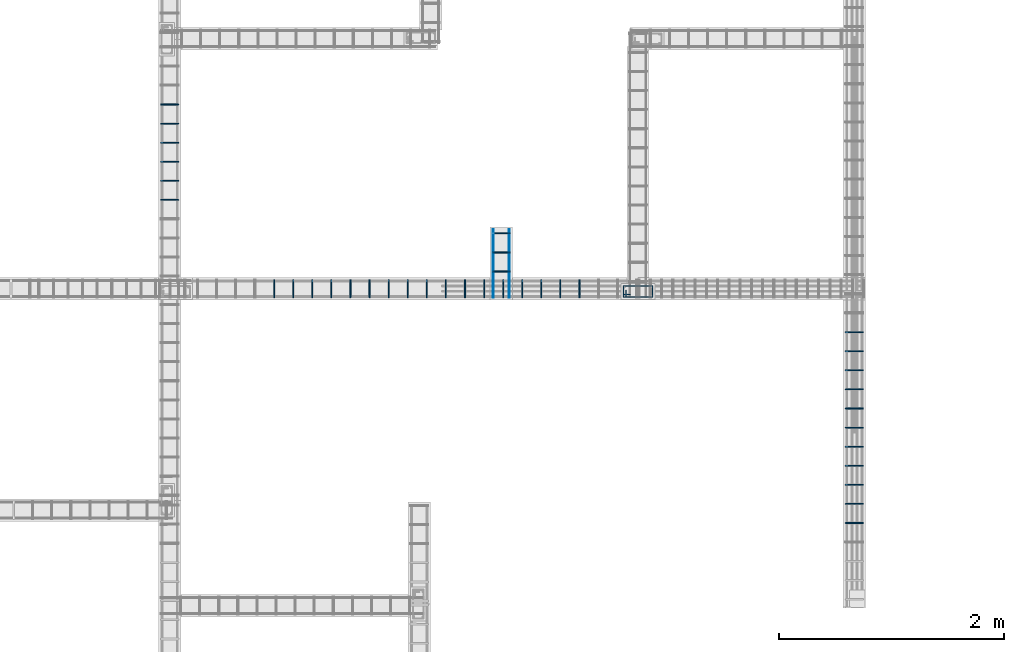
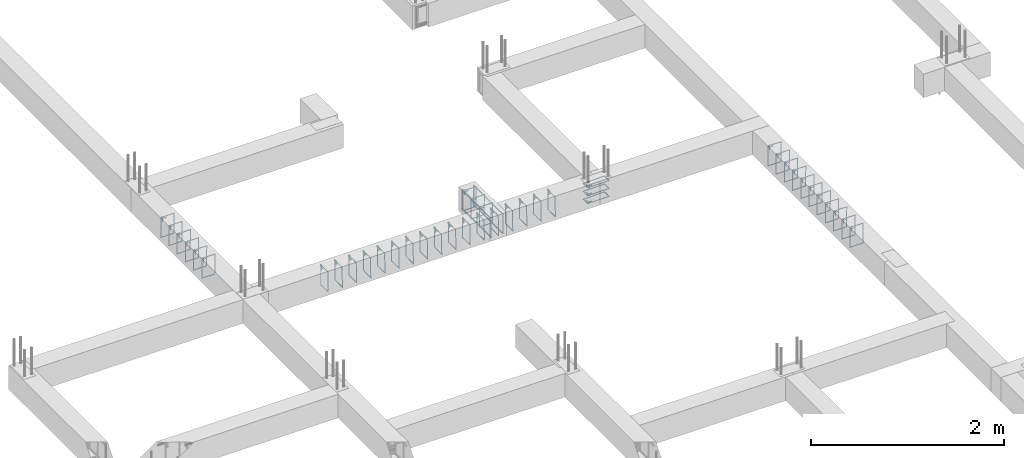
# One storey, part 50 of 150: 44 reinforcing bars.
"""IFC4 building model written with IfcOpenShell, lengths in centimetres."""

from ifc_helpers import new_model, entity, si_unit, derived_unit, frame, origin_with_axes, place, context, project, spatial, source, transform, mapped, element, save


model = new_model("IFC4")

# Units and contexts
model_context = context("Model", 3, precision=1e-05, world=origin_with_axes(), identifier="Body")
ifc_project = project(units=[si_unit("LENGTHUNIT", "METRE", prefix="CENTI"), si_unit("VOLUMEUNIT", "CUBIC_METRE"), si_unit("AREAUNIT", "SQUARE_METRE"), si_unit("POWERUNIT", "WATT"), si_unit("LUMINOUSFLUXUNIT", "LUMEN"), si_unit("ELECTRICCURRENTUNIT", "AMPERE"), si_unit("PRESSUREUNIT", "PASCAL", prefix="KILO"), si_unit("MASSUNIT", "GRAM", prefix="KILO"), si_unit("PLANEANGLEUNIT", "RADIAN"), derived_unit("VOLUMETRICFLOWRATEUNIT", [(si_unit("LENGTHUNIT", "METRE"), 3), (si_unit("TIMEUNIT", "SECOND"), -1)])], contexts=[model_context])

# Site, building, storey
site_placement = place(None, frame((-4000.0, 0.0, 0.0), z_axis=(0.0, 0.0, 1.0), x_axis=(1.0, 0.0, 0.0)))
site = spatial("IfcSite", under=ifc_project, at=site_placement, Name="PADRÃO")
building_placement = place(site_placement, frame((0.0, 0.0, -14.0)))
building = spatial("IfcBuilding", under=site, at=building_placement, Name="CRECHE PRÉ-ESCOLA TIPO 2")
placement = place(building_placement, origin_with_axes())
storey_placement = place(placement, frame((0.0, 0.0, 30.0), z_axis=(0.0, 0.0, 1.0), x_axis=(1.0, 0.0, 0.0)))
storey = spatial("IfcBuildingStorey", under=building, at=storey_placement, Name="VIGA BALDRAME", CompositionType="ELEMENT", Elevation=16.0)

# Reinforcing bars
shared_shape_1 = source(origin_with_axes(), model_context, "Body", "AdvancedSweptSolid", [
    entity("IfcSweptDiskSolid", entity("IfcCompositeCurve", [entity("IfcCompositeCurveSegment", "CONTINUOUS", True, entity("IfcPolyline", [entity("IfcCartesianPoint", [4.25, 21.75, 0.0]), entity("IfcCartesianPoint", [4.25, 27.75, 0.0])])), entity("IfcCompositeCurveSegment", "CONTINUOUS", True, entity("IfcPolyline", [entity("IfcCartesianPoint", [4.25, 27.75, 0.0]), entity("IfcCartesianPoint", [2.25, 27.75, 0.0])])), entity("IfcCompositeCurveSegment", "CONTINUOUS", True, entity("IfcPolyline", [entity("IfcCartesianPoint", [2.25, 27.75, 0.0]), entity("IfcCartesianPoint", [2.25, 2.25, 0.0])])), entity("IfcCompositeCurveSegment", "CONTINUOUS", True, entity("IfcPolyline", [entity("IfcCartesianPoint", [2.25, 2.25, 0.0]), entity("IfcCartesianPoint", [11.75, 2.25, 0.0])])), entity("IfcCompositeCurveSegment", "CONTINUOUS", True, entity("IfcPolyline", [entity("IfcCartesianPoint", [11.75, 2.25, 0.0]), entity("IfcCartesianPoint", [11.75, 27.75, -0.5])])), entity("IfcCompositeCurveSegment", "CONTINUOUS", True, entity("IfcPolyline", [entity("IfcCartesianPoint", [11.75, 27.75, -0.5]), entity("IfcCartesianPoint", [2.25, 27.75, -0.5])])), entity("IfcCompositeCurveSegment", "CONTINUOUS", True, entity("IfcPolyline", [entity("IfcCartesianPoint", [2.25, 27.75, -0.5]), entity("IfcCartesianPoint", [2.25, 25.75, -0.5])])), entity("IfcCompositeCurveSegment", "CONTINUOUS", True, entity("IfcPolyline", [entity("IfcCartesianPoint", [2.25, 25.75, -0.5]), entity("IfcCartesianPoint", [8.25, 25.75, -0.5])]))], False), 0.25),
])
for number, where, z_axis, x_axis, name in (
    (1, (2958.24, 1020.52, -15.0), (0.0, 0.0, 1.0), (0.0, 1.0, 0.0), "P123 - Estribo"),
    (2, (2958.24, 1020.52, -5.0), (0.0, 0.0, 1.0), (0.0, 1.0, 0.0), "P123 - Estribo"),
    (3, (2958.24, 1020.52, -25.0), (0.0, 0.0, 1.0), (0.0, 1.0, 0.0), "P123 - Estribo"),
):
    element("IfcReinforcingBar", number, at=place(storey_placement, frame(where, z_axis=z_axis, x_axis=x_axis)), inside=storey, Name=name, BarLength=0.0, CrossSectionArea=1.9634954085e-05, NominalDiameter=0.5, PredefinedType="MAIN", context=model_context, shape_type="MappedRepresentation", body=[
        mapped(shared_shape_1, transform((0.0, 0.0, 0.0), scale=1.0)),
    ])
shared_shape_2 = source(origin_with_axes(), model_context, "Body", "AdvancedSweptSolid", [
    entity("IfcSweptDiskSolid", entity("IfcCompositeCurve", [entity("IfcCompositeCurveSegment", "CONTINUOUS", True, entity("IfcPolyline", [entity("IfcCartesianPoint", [2.0, -6.0, 0.0]), entity("IfcCartesianPoint", [2.0, 0.0, 0.0])])), entity("IfcCompositeCurveSegment", "CONTINUOUS", True, entity("IfcPolyline", [entity("IfcCartesianPoint", [2.0, 0.0, 0.0]), entity("IfcCartesianPoint", [0.0, 0.0, 0.0])])), entity("IfcCompositeCurveSegment", "CONTINUOUS", True, entity("IfcPolyline", [entity("IfcCartesianPoint", [0.0, 0.0, 0.0]), entity("IfcCartesianPoint", [0.0, -25.5, 0.0])])), entity("IfcCompositeCurveSegment", "CONTINUOUS", True, entity("IfcPolyline", [entity("IfcCartesianPoint", [0.0, -25.5, 0.0]), entity("IfcCartesianPoint", [15.5, -25.5, 0.0])])), entity("IfcCompositeCurveSegment", "CONTINUOUS", True, entity("IfcPolyline", [entity("IfcCartesianPoint", [15.5, -25.5, 0.0]), entity("IfcCartesianPoint", [15.5, 0.0, 0.5])])), entity("IfcCompositeCurveSegment", "CONTINUOUS", True, entity("IfcPolyline", [entity("IfcCartesianPoint", [15.5, 0.0, 0.5]), entity("IfcCartesianPoint", [0.0, 0.0, 0.5])])), entity("IfcCompositeCurveSegment", "CONTINUOUS", True, entity("IfcPolyline", [entity("IfcCartesianPoint", [0.0, 0.0, 0.5]), entity("IfcCartesianPoint", [0.0, -2.0, 0.5])])), entity("IfcCompositeCurveSegment", "CONTINUOUS", True, entity("IfcPolyline", [entity("IfcCartesianPoint", [0.0, -2.0, 0.5]), entity("IfcCartesianPoint", [6.0, -2.0, 0.5])]))], False), 0.25),
])
for number, where, z_axis, x_axis, name in (
    (4, (3128.25, 872.55, -2.25), (0.0, -1.0, 0.0), (1.0, 0.0, 0.0), "V216 - Estribo"),
    (5, (3128.25, 838.55, -2.25), (0.0, -1.0, 0.0), (1.0, 0.0, 0.0), "V216 - Estribo"),
    (6, (3128.25, 821.55, -2.25), (0.0, -1.0, 0.0), (1.0, 0.0, 0.0), "V216 - Estribo"),
    (7, (3128.25, 855.55, -2.25), (0.0, -1.0, 0.0), (1.0, 0.0, 0.0), "V216 - Estribo"),
    (8, (3128.25, 991.55, -2.25), (0.0, -1.0, 0.0), (1.0, 0.0, 0.0), "V216 - Estribo"),
    (9, (3128.25, 974.55, -2.25), (0.0, -1.0, 0.0), (1.0, 0.0, 0.0), "V216 - Estribo"),
    (10, (3128.25, 957.55, -2.25), (0.0, -1.0, 0.0), (1.0, 0.0, 0.0), "V216 - Estribo"),
    (11, (3128.25, 940.55, -2.25), (0.0, -1.0, 0.0), (1.0, 0.0, 0.0), "V216 - Estribo"),
    (12, (3128.25, 923.55, -2.25), (0.0, -1.0, 0.0), (1.0, 0.0, 0.0), "V216 - Estribo"),
    (13, (3128.25, 906.55, -2.25), (0.0, -1.0, 0.0), (1.0, 0.0, 0.0), "V216 - Estribo"),
    (14, (3128.25, 889.55, -2.25), (0.0, -1.0, 0.0), (1.0, 0.0, 0.0), "V216 - Estribo"),
):
    element("IfcReinforcingBar", number, at=place(storey_placement, frame(where, z_axis=z_axis, x_axis=x_axis)), inside=storey, Name=name, BarLength=0.0, CrossSectionArea=1.9634954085e-05, NominalDiameter=0.5, PredefinedType="MAIN", context=model_context, shape_type="MappedRepresentation", body=[
        mapped(shared_shape_2, transform((0.0, 0.0, 0.0), scale=1.0)),
    ])
shared_shape_3 = source(origin_with_axes(), model_context, "Body", "AdvancedSweptSolid", [
    entity("IfcSweptDiskSolid", entity("IfcCompositeCurve", [entity("IfcCompositeCurveSegment", "CONTINUOUS", True, entity("IfcPolyline", [entity("IfcCartesianPoint", [2.0, -6.0, 0.0]), entity("IfcCartesianPoint", [2.0, 0.0, 0.0])])), entity("IfcCompositeCurveSegment", "CONTINUOUS", True, entity("IfcPolyline", [entity("IfcCartesianPoint", [2.0, 0.0, 0.0]), entity("IfcCartesianPoint", [0.0, 0.0, 0.0])])), entity("IfcCompositeCurveSegment", "CONTINUOUS", True, entity("IfcPolyline", [entity("IfcCartesianPoint", [0.0, 0.0, 0.0]), entity("IfcCartesianPoint", [0.0, -25.5, 0.0])])), entity("IfcCompositeCurveSegment", "CONTINUOUS", True, entity("IfcPolyline", [entity("IfcCartesianPoint", [0.0, -25.5, 0.0]), entity("IfcCartesianPoint", [15.5, -25.5, 0.0])])), entity("IfcCompositeCurveSegment", "CONTINUOUS", True, entity("IfcPolyline", [entity("IfcCartesianPoint", [15.5, -25.5, 0.0]), entity("IfcCartesianPoint", [15.5, 0.0, 0.5])])), entity("IfcCompositeCurveSegment", "CONTINUOUS", True, entity("IfcPolyline", [entity("IfcCartesianPoint", [15.5, 0.0, 0.5]), entity("IfcCartesianPoint", [0.0, 0.0, 0.5])])), entity("IfcCompositeCurveSegment", "CONTINUOUS", True, entity("IfcPolyline", [entity("IfcCartesianPoint", [0.0, 0.0, 0.5]), entity("IfcCartesianPoint", [0.0, -2.0, 0.5])])), entity("IfcCompositeCurveSegment", "CONTINUOUS", True, entity("IfcPolyline", [entity("IfcCartesianPoint", [0.0, -2.0, 0.5]), entity("IfcCartesianPoint", [6.0, -2.0, 0.5])]))], False), 0.25),
])
for number, where, z_axis, x_axis, name in (
    (15, (2518.25, 1194.3, -2.25), (0.0, -1.0, 0.0), (1.0, 0.0, 0.0), "V196 - Estribo"),
    (16, (2518.25, 1177.3, -2.25), (0.0, -1.0, 0.0), (1.0, 0.0, 0.0), "V196 - Estribo"),
    (17, (2518.25, 1160.3, -2.25), (0.0, -1.0, 0.0), (1.0, 0.0, 0.0), "V196 - Estribo"),
    (18, (2518.25, 1143.3, -2.25), (0.0, -1.0, 0.0), (1.0, 0.0, 0.0), "V196 - Estribo"),
    (19, (2518.25, 1126.3, -2.25), (0.0, -1.0, 0.0), (1.0, 0.0, 0.0), "V196 - Estribo"),
    (20, (2518.25, 1109.3, -2.25), (0.0, -1.0, 0.0), (1.0, 0.0, 0.0), "V196 - Estribo"),
):
    element("IfcReinforcingBar", number, at=place(storey_placement, frame(where, z_axis=z_axis, x_axis=x_axis)), inside=storey, Name=name, BarLength=0.0, CrossSectionArea=1.9634954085e-05, NominalDiameter=0.5, PredefinedType="MAIN", context=model_context, shape_type="MappedRepresentation", body=[
        mapped(shared_shape_3, transform((0.0, 0.0, 0.0), scale=1.0)),
    ])
shared_shape_4 = source(origin_with_axes(), model_context, "Body", "AdvancedSweptSolid", [
    entity("IfcSweptDiskSolid", entity("IfcCompositeCurve", [entity("IfcCompositeCurveSegment", "CONTINUOUS", True, entity("IfcPolyline", [entity("IfcCartesianPoint", [2.0, -6.0, 0.0]), entity("IfcCartesianPoint", [2.0, 0.0, 0.0])])), entity("IfcCompositeCurveSegment", "CONTINUOUS", True, entity("IfcPolyline", [entity("IfcCartesianPoint", [2.0, 0.0, 0.0]), entity("IfcCartesianPoint", [0.0, 0.0, 0.0])])), entity("IfcCompositeCurveSegment", "CONTINUOUS", True, entity("IfcPolyline", [entity("IfcCartesianPoint", [0.0, 0.0, 0.0]), entity("IfcCartesianPoint", [0.0, -25.5, 0.0])])), entity("IfcCompositeCurveSegment", "CONTINUOUS", True, entity("IfcPolyline", [entity("IfcCartesianPoint", [0.0, -25.5, 0.0]), entity("IfcCartesianPoint", [15.5, -25.5, 0.0])])), entity("IfcCompositeCurveSegment", "CONTINUOUS", True, entity("IfcPolyline", [entity("IfcCartesianPoint", [15.5, -25.5, 0.0]), entity("IfcCartesianPoint", [15.5, 0.0, 0.5])])), entity("IfcCompositeCurveSegment", "CONTINUOUS", True, entity("IfcPolyline", [entity("IfcCartesianPoint", [15.5, 0.0, 0.5]), entity("IfcCartesianPoint", [0.0, 0.0, 0.5])])), entity("IfcCompositeCurveSegment", "CONTINUOUS", True, entity("IfcPolyline", [entity("IfcCartesianPoint", [0.0, 0.0, 0.5]), entity("IfcCartesianPoint", [0.0, -2.0, 0.5])])), entity("IfcCompositeCurveSegment", "CONTINUOUS", True, entity("IfcPolyline", [entity("IfcCartesianPoint", [0.0, -2.0, 0.5]), entity("IfcCartesianPoint", [6.0, -2.0, 0.5])]))], False), 0.25),
])
for number, where, z_axis, x_axis, name in (
    (21, (2813.75, 1079.51, -2.25), (0.0, -1.0, 0.0), (1.0, 0.0, 0.0), "V207 - Estribo"),
    (22, (2813.75, 1062.51, -2.25), (0.0, -1.0, 0.0), (1.0, 0.0, 0.0), "V207 - Estribo"),
    (23, (2813.75, 1045.51, -2.25), (0.0, -1.0, 0.0), (1.0, 0.0, 0.0), "V207 - Estribo"),
):
    element("IfcReinforcingBar", number, at=place(storey_placement, frame(where, z_axis=z_axis, x_axis=x_axis)), inside=storey, Name=name, BarLength=0.0, CrossSectionArea=1.9634954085e-05, NominalDiameter=0.5, PredefinedType="MAIN", context=model_context, shape_type="MappedRepresentation", body=[
        mapped(shared_shape_4, transform((0.0, 0.0, 0.0), scale=1.0)),
    ])
shared_shape_5 = source(origin_with_axes(), model_context, "Body", "AdvancedSweptSolid", [
    entity("IfcSweptDiskSolid", entity("IfcCompositeCurve", [entity("IfcCompositeCurveSegment", "CONTINUOUS", True, entity("IfcPolyline", [entity("IfcCartesianPoint", [2.0, -6.0, 0.0]), entity("IfcCartesianPoint", [2.0, 0.0, 0.0])])), entity("IfcCompositeCurveSegment", "CONTINUOUS", True, entity("IfcPolyline", [entity("IfcCartesianPoint", [2.0, 0.0, 0.0]), entity("IfcCartesianPoint", [0.0, 0.0, 0.0])])), entity("IfcCompositeCurveSegment", "CONTINUOUS", True, entity("IfcPolyline", [entity("IfcCartesianPoint", [0.0, 0.0, 0.0]), entity("IfcCartesianPoint", [0.0, -25.5, 0.0])])), entity("IfcCompositeCurveSegment", "CONTINUOUS", True, entity("IfcPolyline", [entity("IfcCartesianPoint", [0.0, -25.5, 0.0]), entity("IfcCartesianPoint", [15.5, -25.5, 0.0])])), entity("IfcCompositeCurveSegment", "CONTINUOUS", True, entity("IfcPolyline", [entity("IfcCartesianPoint", [15.5, -25.5, 0.0]), entity("IfcCartesianPoint", [15.5, 0.0, 0.5])])), entity("IfcCompositeCurveSegment", "CONTINUOUS", True, entity("IfcPolyline", [entity("IfcCartesianPoint", [15.5, 0.0, 0.5]), entity("IfcCartesianPoint", [0.0, 0.0, 0.5])])), entity("IfcCompositeCurveSegment", "CONTINUOUS", True, entity("IfcPolyline", [entity("IfcCartesianPoint", [0.0, 0.0, 0.5]), entity("IfcCartesianPoint", [0.0, -2.0, 0.5])])), entity("IfcCompositeCurveSegment", "CONTINUOUS", True, entity("IfcPolyline", [entity("IfcCartesianPoint", [0.0, -2.0, 0.5]), entity("IfcCartesianPoint", [6.0, -2.0, 0.5])]))], False), 0.25),
])
for number, where, z_axis, x_axis, name in (
    (24, (2840.37, 1037.76, -2.25), (-1.0, 0.0, 0.0), (0.0, -1.0, 0.0), "V143 - Estribo"),
    (25, (2823.37, 1037.76, -2.25), (-1.0, 0.0, 0.0), (0.0, -1.0, 0.0), "V143 - Estribo"),
    (26, (2755.37, 1037.76, -2.25), (-1.0, 0.0, 0.0), (0.0, -1.0, 0.0), "V143 - Estribo"),
    (27, (2806.37, 1037.76, -2.25), (-1.0, 0.0, 0.0), (0.0, -1.0, 0.0), "V143 - Estribo"),
    (28, (2789.37, 1037.76, -2.25), (-1.0, 0.0, 0.0), (0.0, -1.0, 0.0), "V143 - Estribo"),
    (29, (2772.37, 1037.76, -2.25), (-1.0, 0.0, 0.0), (0.0, -1.0, 0.0), "V143 - Estribo"),
    (30, (2738.37, 1037.76, -2.25), (-1.0, 0.0, 0.0), (0.0, -1.0, 0.0), "V143 - Estribo"),
    (31, (2721.37, 1037.76, -2.25), (-1.0, 0.0, 0.0), (0.0, -1.0, 0.0), "V143 - Estribo"),
    (32, (2704.37, 1037.76, -2.25), (-1.0, 0.0, 0.0), (0.0, -1.0, 0.0), "V143 - Estribo"),
    (33, (2687.37, 1037.76, -2.25), (-1.0, 0.0, 0.0), (0.0, -1.0, 0.0), "V143 - Estribo"),
    (34, (2670.37, 1037.76, -2.25), (-1.0, 0.0, 0.0), (0.0, -1.0, 0.0), "V143 - Estribo"),
    (35, (2653.37, 1037.76, -2.25), (-1.0, 0.0, 0.0), (0.0, -1.0, 0.0), "V143 - Estribo"),
    (36, (2636.37, 1037.76, -2.25), (-1.0, 0.0, 0.0), (0.0, -1.0, 0.0), "V143 - Estribo"),
    (37, (2619.37, 1037.76, -2.25), (-1.0, 0.0, 0.0), (0.0, -1.0, 0.0), "V143 - Estribo"),
    (38, (2891.37, 1037.76, -2.25), (-1.0, 0.0, 0.0), (0.0, -1.0, 0.0), "V143 - Estribo"),
    (39, (2874.37, 1037.76, -2.25), (-1.0, 0.0, 0.0), (0.0, -1.0, 0.0), "V143 - Estribo"),
    (40, (2857.37, 1037.76, -2.25), (-1.0, 0.0, 0.0), (0.0, -1.0, 0.0), "V143 - Estribo"),
):
    element("IfcReinforcingBar", number, at=place(storey_placement, frame(where, z_axis=z_axis, x_axis=x_axis)), inside=storey, Name=name, BarLength=0.0, CrossSectionArea=1.9634954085e-05, NominalDiameter=0.5, PredefinedType="MAIN", context=model_context, shape_type="MappedRepresentation", body=[
        mapped(shared_shape_5, transform((0.0, 0.0, 0.0), scale=1.0)),
    ])
for number, where, z_axis, x_axis, name in (
    (41, (2828.6, 1052.51, -26.7), (0.0, 0.0, 1.0), (1.0, 0.0, 0.0), "V207 - Longitudinal inferior"),
    (42, (2814.4, 1052.51, -26.7), (0.0, 0.0, 1.0), (1.0, 0.0, 0.0), "V207 - Longitudinal inferior"),
):
    element("IfcReinforcingBar", number, at=place(storey_placement, frame(where, z_axis=z_axis, x_axis=x_axis)), inside=storey, Name=name, BarLength=0.0, CrossSectionArea=5.0265482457e-05, NominalDiameter=0.8, PredefinedType="MAIN", context=model_context, shape_type="AdvancedSweptSolid", body=[
        entity("IfcSweptDiskSolid", entity("IfcCompositeCurve", [entity("IfcCompositeCurveSegment", "CONTINUOUS", True, entity("IfcPolyline", [entity("IfcCartesianPoint", [0.0, -30.5, -0.4]), entity("IfcCartesianPoint", [0.0, 30.5, -0.4])]))], False), 0.4),
    ])
for number, where, z_axis, x_axis, name in (
    (43, (2814.4, 1052.51, -2.49624973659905), (0.0, 0.0, 1.0), (1.0, 0.0, 0.0), "V207 - Longitudinal superior"),
    (44, (2828.6, 1052.51, -2.49624973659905), (0.0, 0.0, 1.0), (1.0, 0.0, 0.0), "V207 - Longitudinal superior"),
):
    element("IfcReinforcingBar", number, at=place(storey_placement, frame(where, z_axis=z_axis, x_axis=x_axis)), inside=storey, Name=name, BarLength=0.0, CrossSectionArea=5.0265482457e-05, NominalDiameter=0.8, PredefinedType="MAIN", context=model_context, shape_type="AdvancedSweptSolid", body=[
        entity("IfcSweptDiskSolid", entity("IfcCompositeCurve", [entity("IfcCompositeCurveSegment", "CONTINUOUS", True, entity("IfcPolyline", [entity("IfcCartesianPoint", [0.0, -30.1, -24.2941566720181]), entity("IfcCartesianPoint", [0.0, -30.1, -0.403750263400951])])), entity("IfcCompositeCurveSegment", "CONTINUOUS", True, entity("IfcPolyline", [entity("IfcCartesianPoint", [0.0, -30.1, -0.403750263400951]), entity("IfcCartesianPoint", [0.0, 30.1, -0.403750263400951])])), entity("IfcCompositeCurveSegment", "CONTINUOUS", True, entity("IfcPolyline", [entity("IfcCartesianPoint", [0.0, 30.1, -0.403750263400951]), entity("IfcCartesianPoint", [0.0, 30.1, -26.403750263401])]))], False), 0.4),
    ])

save(model, "model.ifc")
